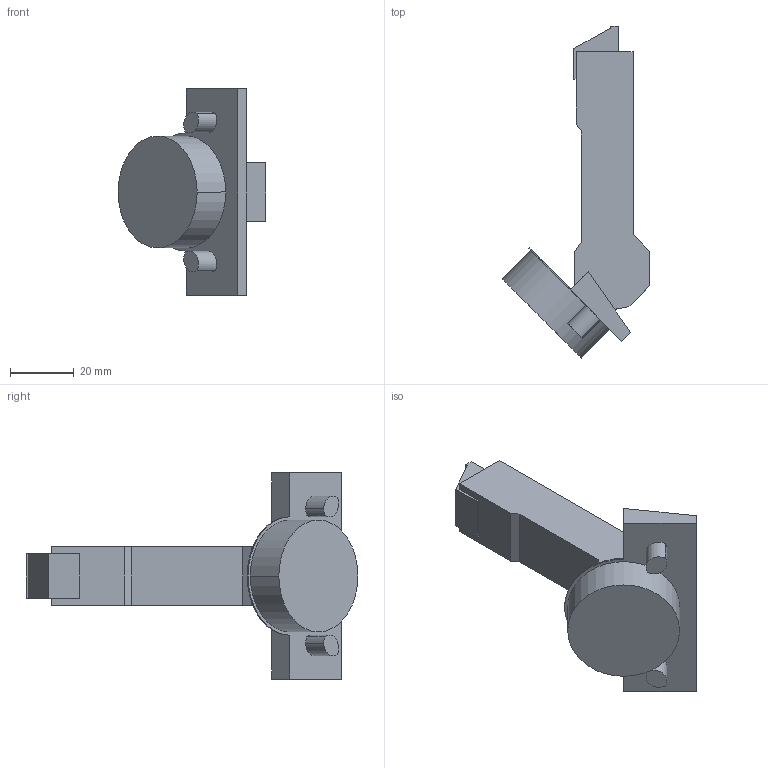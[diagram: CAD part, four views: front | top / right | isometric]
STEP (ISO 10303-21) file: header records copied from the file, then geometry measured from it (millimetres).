
FILE_DESCRIPTION (( 'STEP AP214' ), '1' );
FILE_NAME ('Scharnier T Impresso 110°_+45° GB_BB, aufliegend, KMPL-37, H00.step', '2018-09-19T13:18:18', ( '' ), ( '' ), 'SwSTEP 2.0', 'SolidWorks 2017', '' );
FILE_SCHEMA (( 'AUTOMOTIVE_DESIGN' ));
Length unit declared in the file: millimetre
Products named in the file (1): Scharnier T Impresso 110°_+45° GB_BB, aufliegend, KMPL-37, H00
Bounding box: 46.27 x 103.84 x 64.5 mm (x, y, z)
Volume: 47780.7 mm3; surface area: 12906.9 mm2
Topology: 1 solids, 1 shells, 52 faces, 132 edges, 88 vertices
Faces by surface type: plane 37, cylinder 15
Entity records: 1600 total; most frequent: CARTESIAN_POINT 273, DIRECTION 268, ORIENTED_EDGE 264, EDGE_CURVE 132, LINE 102, VECTOR 102, VERTEX_POINT 88, AXIS2_PLACEMENT_3D 83
